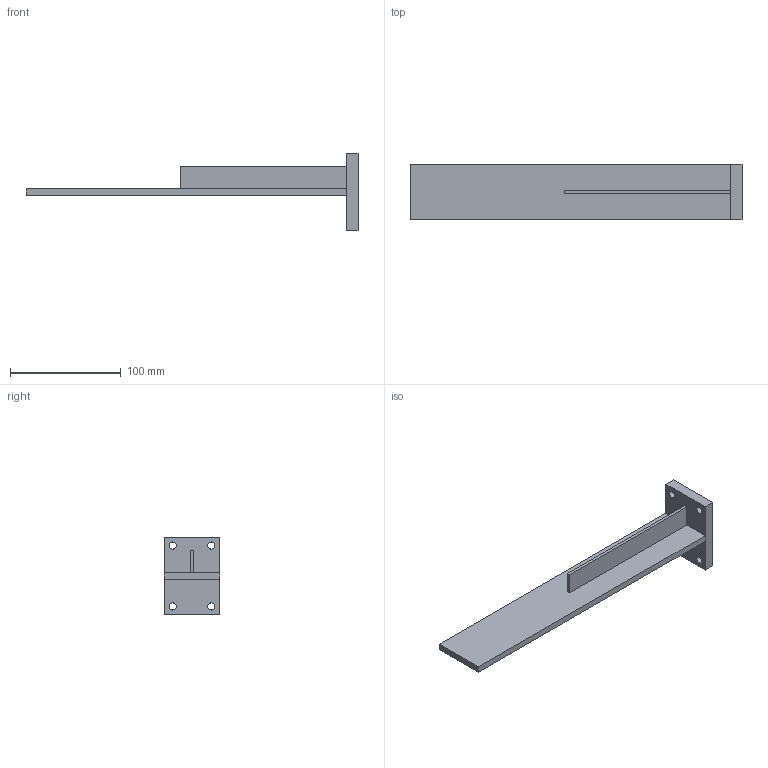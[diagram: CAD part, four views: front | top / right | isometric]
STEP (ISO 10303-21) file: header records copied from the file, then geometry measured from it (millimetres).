
FILE_DESCRIPTION(/* description */ (''),/* implementation_level */ '2;1');
FILE_NAME(/* name */ 'C:\Local Work Area\Progetti\AP\CALIBRI\03 Staffe\03.05-B.stp',/* time_stamp */ '2015-05-22T09:28:53+02:00',/* author */ ('CAD5'),/* organization */ (''),/* preprocessor_version */ 'ST-DEVELOPER v15.2',/* originating_system */ 'Autodesk Inventor 2014',/* authorisation */ '');
FILE_SCHEMA (('AUTOMOTIVE_DESIGN { 1 0 10303 214 3 1 1 }'));
Length unit declared in the file: millimetre
Products named in the file (4): 03.05B-a; 03.05B-b; 03.05B-c; 03.05-B
Bounding box: 300 x 50 x 70 mm (x, y, z)
Volume: 129672.7 mm3; surface area: 50051.3 mm2
Topology: 3 solids, 3 shells, 22 faces, 52 edges, 36 vertices
Faces by surface type: plane 18, cylinder 4
Full cylindrical faces by diameter (mm): 6.5 x4
Entity records: 682 total; most frequent: DIRECTION 110, CARTESIAN_POINT 105, ORIENTED_EDGE 88, EDGE_CURVE 44, AXIS2_PLACEMENT_3D 37, LINE 36, VECTOR 36, EDGE_LOOP 34
